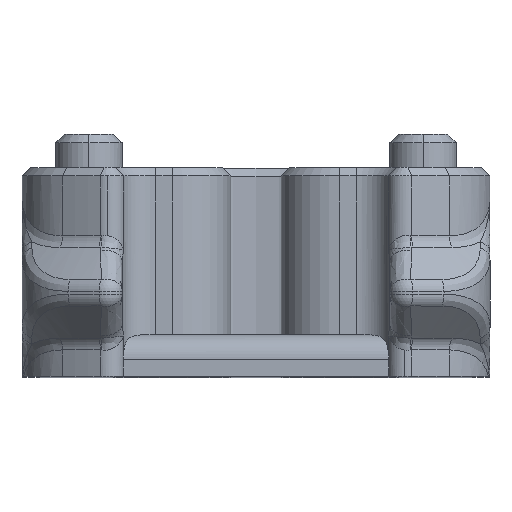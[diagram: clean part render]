
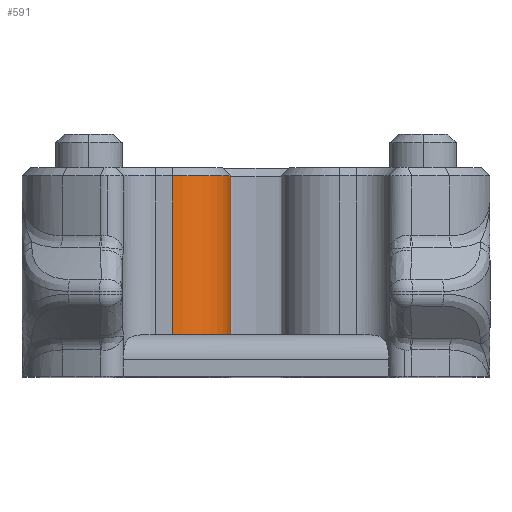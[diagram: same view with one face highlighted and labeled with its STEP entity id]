
A CAD part, top view. The second image highlights one B-rep face of the part: STEP entity #591.
In plain terms, the highlighted cylindrical face has radius 3.5 mm (diameter 7 mm), a partial arc.
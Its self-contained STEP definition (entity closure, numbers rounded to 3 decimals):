
#61 = CARTESIAN_POINT ( 'NONE',  ( -5., 116.5, 18.5 ) ) ;
#587 = VERTEX_POINT ( 'NONE', #61 ) ;
#591 = ADVANCED_FACE ( 'NONE', ( #6857 ), #3519, .T. ) ;
#685 = CARTESIAN_POINT ( 'NONE',  ( -5., 116.5, 11.5 ) ) ;
#700 = DIRECTION ( 'NONE',  ( 0., 1., 0. ) ) ;
#842 = AXIS2_PLACEMENT_3D ( 'NONE', #2950, #700, #5301 ) ;
#915 = CARTESIAN_POINT ( 'NONE',  ( -5., 106.948, 18.5 ) ) ;
#945 = CARTESIAN_POINT ( 'NONE',  ( -5., 126., 15. ) ) ;
#1050 = EDGE_CURVE ( 'NONE', #587, #1370, #6116, .T. ) ;
#1193 = DIRECTION ( 'NONE',  ( 0., 0., 1. ) ) ;
#1266 = CIRCLE ( 'NONE', #2217, 3.5 ) ;
#1370 = VERTEX_POINT ( 'NONE', #2024 ) ;
#2024 = CARTESIAN_POINT ( 'NONE',  ( -5., 126., 18.5 ) ) ;
#2171 = ORIENTED_EDGE ( 'NONE', *, *, #4779, .F. ) ;
#2217 = AXIS2_PLACEMENT_3D ( 'NONE', #6291, #6366, #1193 ) ;
#2352 = ORIENTED_EDGE ( 'NONE', *, *, #1050, .F. ) ;
#2655 = ORIENTED_EDGE ( 'NONE', *, *, #3526, .T. ) ;
#2711 = VERTEX_POINT ( 'NONE', #2712 ) ;
#2712 = CARTESIAN_POINT ( 'NONE',  ( -5., 126., 11.5 ) ) ;
#2950 = CARTESIAN_POINT ( 'NONE',  ( -5., 106.948, 15. ) ) ;
#3143 = CIRCLE ( 'NONE', #7274, 3.5 ) ;
#3178 = LINE ( 'NONE', #3252, #4966 ) ;
#3252 = CARTESIAN_POINT ( 'NONE',  ( -5., 106.948, 11.5 ) ) ;
#3519 = CYLINDRICAL_SURFACE ( 'NONE', #842, 3.5 ) ;
#3526 = EDGE_CURVE ( 'NONE', #2711, #1370, #3143, .T. ) ;
#3702 = ORIENTED_EDGE ( 'NONE', *, *, #6215, .T. ) ;
#3976 = VECTOR ( 'NONE', #6650, 1000. ) ;
#4779 = EDGE_CURVE ( 'NONE', #6434, #587, #1266, .T. ) ;
#4803 = DIRECTION ( 'NONE',  ( 0., 0., 1. ) ) ;
#4966 = VECTOR ( 'NONE', #5492, 1000. ) ;
#5301 = DIRECTION ( 'NONE',  ( 0., 0., 1. ) ) ;
#5492 = DIRECTION ( 'NONE',  ( 0., 1., 0. ) ) ;
#6116 = LINE ( 'NONE', #915, #3976 ) ;
#6215 = EDGE_CURVE ( 'NONE', #6434, #2711, #3178, .T. ) ;
#6291 = CARTESIAN_POINT ( 'NONE',  ( -5., 116.5, 15. ) ) ;
#6366 = DIRECTION ( 'NONE',  ( 0., -1., 0. ) ) ;
#6434 = VERTEX_POINT ( 'NONE', #685 ) ;
#6650 = DIRECTION ( 'NONE',  ( 0., 1., 0. ) ) ;
#6857 = FACE_OUTER_BOUND ( 'NONE', #7484, .T. ) ;
#7219 = DIRECTION ( 'NONE',  ( 0., -1., 0. ) ) ;
#7274 = AXIS2_PLACEMENT_3D ( 'NONE', #945, #7219, #4803 ) ;
#7484 = EDGE_LOOP ( 'NONE', ( #3702, #2655, #2352, #2171 ) ) ;
